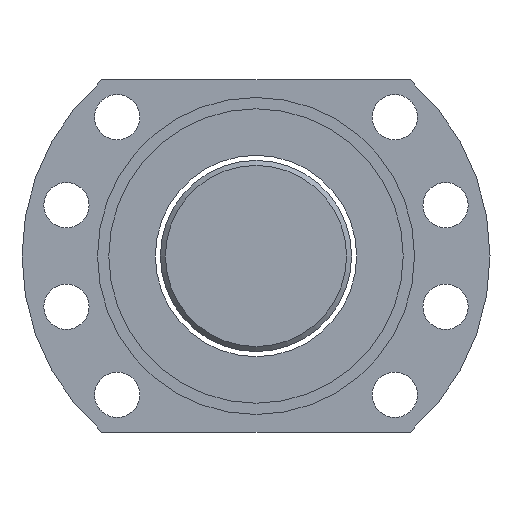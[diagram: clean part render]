
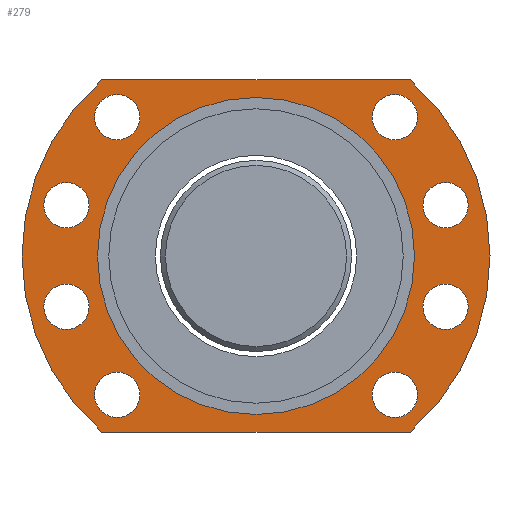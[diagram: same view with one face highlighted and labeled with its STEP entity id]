
A CAD part, left-side view. The second image highlights one B-rep face of the part: STEP entity #279.
In plain terms, the highlighted planar face has unit normal (-1, 0, 0).
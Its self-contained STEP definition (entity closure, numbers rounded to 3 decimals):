
#97=LINE('',#1212,#105);
#98=LINE('',#1216,#106);
#105=VECTOR('',#1002,1.);
#106=VECTOR('',#1005,1.);
#197=FACE_BOUND('',#387,.T.);
#198=FACE_BOUND('',#388,.T.);
#199=FACE_BOUND('',#389,.T.);
#200=FACE_BOUND('',#390,.T.);
#201=FACE_BOUND('',#391,.T.);
#202=FACE_BOUND('',#392,.T.);
#203=FACE_BOUND('',#393,.T.);
#204=FACE_BOUND('',#394,.T.);
#205=FACE_BOUND('',#395,.T.);
#206=FACE_BOUND('',#396,.T.);
#279=ADVANCED_FACE('',(#197,#198,#199,#200,#201,#202,#203,#204,#205,#206),
#320,.T.);
#320=PLANE('',#834);
#387=EDGE_LOOP('',(#504));
#388=EDGE_LOOP('',(#505));
#389=EDGE_LOOP('',(#506));
#390=EDGE_LOOP('',(#507));
#391=EDGE_LOOP('',(#508));
#392=EDGE_LOOP('',(#509,#510,#511,#512));
#393=EDGE_LOOP('',(#513));
#394=EDGE_LOOP('',(#514));
#395=EDGE_LOOP('',(#515));
#396=EDGE_LOOP('',(#516));
#504=ORIENTED_EDGE('',*,*,#678,.T.);
#505=ORIENTED_EDGE('',*,*,#679,.T.);
#506=ORIENTED_EDGE('',*,*,#680,.F.);
#507=ORIENTED_EDGE('',*,*,#681,.F.);
#508=ORIENTED_EDGE('',*,*,#682,.F.);
#509=ORIENTED_EDGE('',*,*,#683,.T.);
#510=ORIENTED_EDGE('',*,*,#684,.T.);
#511=ORIENTED_EDGE('',*,*,#685,.T.);
#512=ORIENTED_EDGE('',*,*,#686,.T.);
#513=ORIENTED_EDGE('',*,*,#687,.F.);
#514=ORIENTED_EDGE('',*,*,#688,.T.);
#515=ORIENTED_EDGE('',*,*,#689,.F.);
#516=ORIENTED_EDGE('',*,*,#690,.T.);
#616=VERTEX_POINT('',#1200);
#617=VERTEX_POINT('',#1202);
#618=VERTEX_POINT('',#1204);
#619=VERTEX_POINT('',#1206);
#620=VERTEX_POINT('',#1208);
#621=VERTEX_POINT('',#1210);
#622=VERTEX_POINT('',#1211);
#623=VERTEX_POINT('',#1213);
#624=VERTEX_POINT('',#1215);
#625=VERTEX_POINT('',#1218);
#626=VERTEX_POINT('',#1220);
#627=VERTEX_POINT('',#1222);
#628=VERTEX_POINT('',#1224);
#678=EDGE_CURVE('',#616,#616,#742,.T.);
#679=EDGE_CURVE('',#617,#617,#743,.T.);
#680=EDGE_CURVE('',#618,#618,#744,.T.);
#681=EDGE_CURVE('',#619,#619,#745,.T.);
#682=EDGE_CURVE('',#620,#620,#746,.T.);
#683=EDGE_CURVE('',#621,#622,#747,.T.);
#684=EDGE_CURVE('',#622,#623,#97,.T.);
#685=EDGE_CURVE('',#623,#624,#748,.T.);
#686=EDGE_CURVE('',#624,#621,#98,.T.);
#687=EDGE_CURVE('',#625,#625,#749,.T.);
#688=EDGE_CURVE('',#626,#626,#750,.T.);
#689=EDGE_CURVE('',#627,#627,#751,.T.);
#690=EDGE_CURVE('',#628,#628,#752,.T.);
#742=CIRCLE('',#823,4.5);
#743=CIRCLE('',#824,4.5);
#744=CIRCLE('',#825,4.5);
#745=CIRCLE('',#826,4.5);
#746=CIRCLE('',#827,4.5);
#747=CIRCLE('',#828,46.5);
#748=CIRCLE('',#829,46.5);
#749=CIRCLE('',#830,31.5);
#750=CIRCLE('',#831,4.5);
#751=CIRCLE('',#832,4.5);
#752=CIRCLE('',#833,4.5);
#823=AXIS2_PLACEMENT_3D('',#1199,#990,#991);
#824=AXIS2_PLACEMENT_3D('',#1201,#992,#993);
#825=AXIS2_PLACEMENT_3D('',#1203,#994,#995);
#826=AXIS2_PLACEMENT_3D('',#1205,#996,#997);
#827=AXIS2_PLACEMENT_3D('',#1207,#998,#999);
#828=AXIS2_PLACEMENT_3D('',#1209,#1000,#1001);
#829=AXIS2_PLACEMENT_3D('',#1214,#1003,#1004);
#830=AXIS2_PLACEMENT_3D('',#1217,#1006,#1007);
#831=AXIS2_PLACEMENT_3D('',#1219,#1008,#1009);
#832=AXIS2_PLACEMENT_3D('',#1221,#1010,#1011);
#833=AXIS2_PLACEMENT_3D('',#1223,#1012,#1013);
#834=AXIS2_PLACEMENT_3D('',#1225,#1014,#1015);
#990=DIRECTION('',(1.,0.,0.));
#991=DIRECTION('',(0.,0.,1.));
#992=DIRECTION('',(1.,0.,0.));
#993=DIRECTION('',(0.,0.,1.));
#994=DIRECTION('',(-1.,0.,0.));
#995=DIRECTION('',(0.,0.,1.));
#996=DIRECTION('',(-1.,0.,0.));
#997=DIRECTION('',(0.,0.,1.));
#998=DIRECTION('',(-1.,0.,0.));
#999=DIRECTION('',(0.,0.,1.));
#1000=DIRECTION('',(-1.,0.,0.));
#1001=DIRECTION('',(0.,0.,-1.));
#1002=DIRECTION('',(0.,-1.,0.));
#1003=DIRECTION('',(-1.,0.,0.));
#1004=DIRECTION('',(0.,0.,-1.));
#1005=DIRECTION('',(0.,1.,0.));
#1006=DIRECTION('',(-1.,0.,0.));
#1007=DIRECTION('',(0.,0.,-1.));
#1008=DIRECTION('',(1.,0.,0.));
#1009=DIRECTION('',(0.,0.,1.));
#1010=DIRECTION('',(-1.,0.,0.));
#1011=DIRECTION('',(0.,0.,1.));
#1012=DIRECTION('',(1.,0.,0.));
#1013=DIRECTION('',(0.,0.,1.));
#1014=DIRECTION('',(-1.,0.,0.));
#1015=DIRECTION('',(0.,0.,1.));
#1199=CARTESIAN_POINT('',(-119.931,-97.061,11.237));
#1200=CARTESIAN_POINT('',(-119.931,-97.061,15.737));
#1201=CARTESIAN_POINT('',(-119.931,-86.967,-26.434));
#1202=CARTESIAN_POINT('',(-119.931,-86.967,-21.934));
#1203=CARTESIAN_POINT('',(-119.931,-31.812,-26.434));
#1204=CARTESIAN_POINT('',(-119.931,-31.812,-21.934));
#1205=CARTESIAN_POINT('',(-119.931,-21.718,11.237));
#1206=CARTESIAN_POINT('',(-119.931,-21.718,15.737));
#1207=CARTESIAN_POINT('',(-119.931,-21.718,-8.951));
#1208=CARTESIAN_POINT('',(-119.931,-21.718,-4.451));
#1209=CARTESIAN_POINT('',(-119.931,-59.39,1.143));
#1210=CARTESIAN_POINT('',(-119.931,-28.775,36.143));
#1211=CARTESIAN_POINT('',(-119.931,-28.775,-33.857));
#1212=CARTESIAN_POINT('',(-119.931,-28.775,-33.857));
#1213=CARTESIAN_POINT('',(-119.931,-90.004,-33.857));
#1214=CARTESIAN_POINT('',(-119.931,-59.39,1.143));
#1215=CARTESIAN_POINT('',(-119.931,-90.004,36.143));
#1216=CARTESIAN_POINT('',(-119.931,-90.004,36.143));
#1217=CARTESIAN_POINT('',(-119.931,-59.39,1.143));
#1218=CARTESIAN_POINT('',(-119.931,-59.39,-30.357));
#1219=CARTESIAN_POINT('',(-119.931,-97.061,-8.951));
#1220=CARTESIAN_POINT('',(-119.931,-97.061,-4.451));
#1221=CARTESIAN_POINT('',(-119.931,-31.812,28.72));
#1222=CARTESIAN_POINT('',(-119.931,-31.812,33.22));
#1223=CARTESIAN_POINT('',(-119.931,-86.967,28.72));
#1224=CARTESIAN_POINT('',(-119.931,-86.967,33.22));
#1225=CARTESIAN_POINT('',(-119.931,-59.39,1.143));
